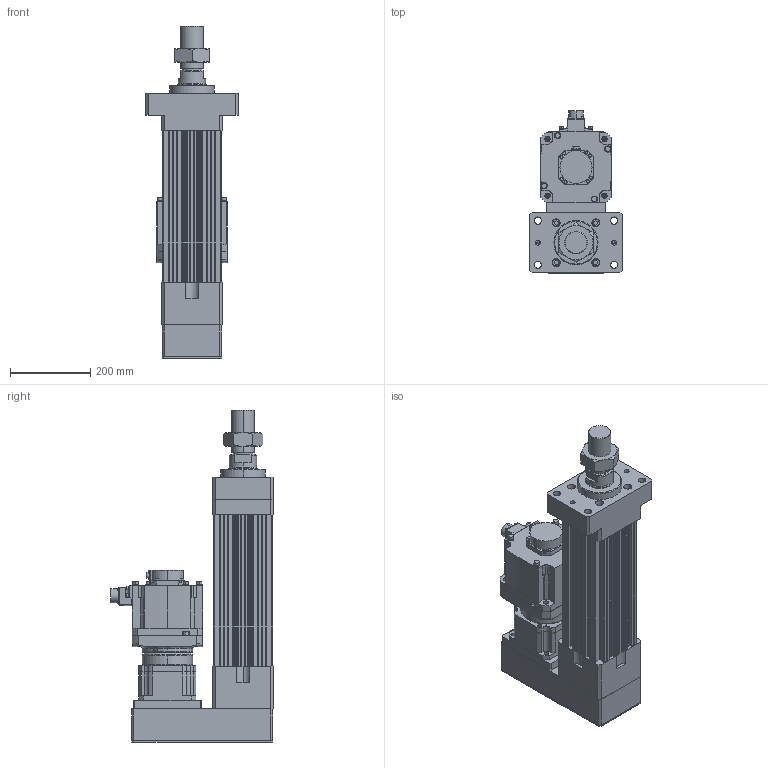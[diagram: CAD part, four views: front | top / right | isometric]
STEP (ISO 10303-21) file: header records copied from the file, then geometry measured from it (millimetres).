
FILE_DESCRIPTION (( 'STEP AP203' ), '1' );
FILE_NAME ('HES150NS(HS)-P100-W035G00-M-FMA.STEP', '2023-01-31T10:08:24', ( 'tms' ), ( '' ), 'SwSTEP 2.0', 'SolidWorks 2013', '' );
FILE_SCHEMA (( 'CONFIG_CONTROL_DESIGN' ));
Length unit declared in the file: millimetre
Products named in the file (9): P0403500801; M56X2.0P; AB142-003[HG-SR352]; HG-SR352; HES150-P100-G142-FMA; HES150NS(HS)-P100-W035G00-M-FMA; P1301500001; HES150 ROD M ST100; AB1421
Assembly tree (8 placements, depth 3):
  HES150NS(HS)-P100-W035G00-M-FMA
    HES150-P100-G142-FMA
    HES150 ROD M ST100
    M56X2.0P
    AB142-003[HG-SR352]
      AB1421
      P1301500001
      P0403500801
    HG-SR352
Bounding box: 230 x 403.85 x 826 mm (x, y, z)
Volume: 16385180.1 mm3; surface area: 1488724.1 mm2
Topology: 4 solids, 18 shells, 1426 faces, 3722 edges, 2416 vertices
Faces by surface type: cylinder 669, plane 531, cone 144, bspline 76, torus 6
Entity records: 52806 total; most frequent: CARTESIAN_POINT 16363, DIRECTION 7620, ORIENTED_EDGE 7346, EDGE_CURVE 3695, AXIS2_PLACEMENT_3D 2898, VERTEX_POINT 2416, LINE 1824, VECTOR 1824
